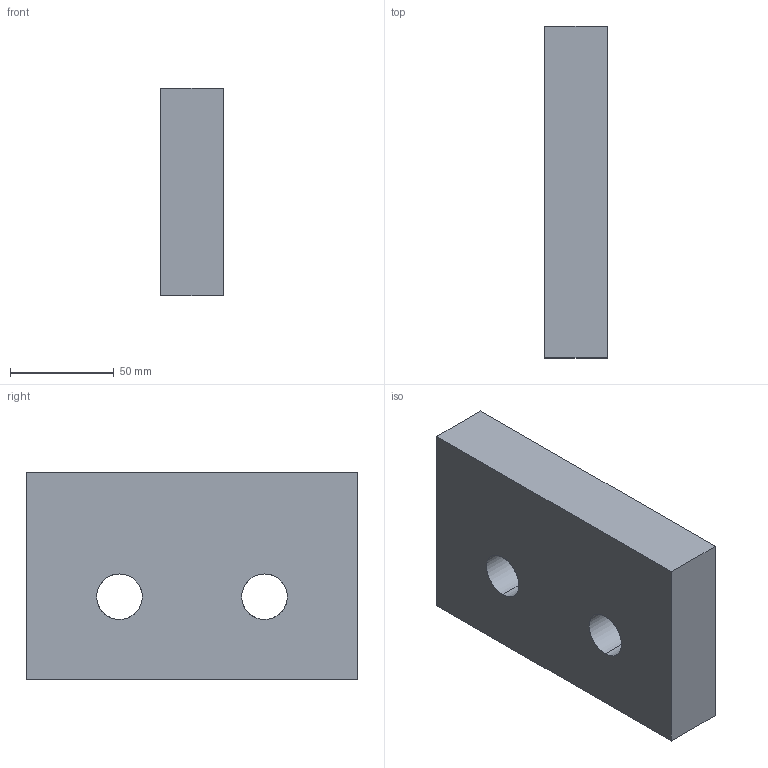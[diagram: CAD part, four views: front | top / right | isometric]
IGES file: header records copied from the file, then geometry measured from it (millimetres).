
Start section: START RECORD GO HERE.
Global section: file name: A612-100-1601.igs; native system: DASSAULT SYSTEMES CATIA V5 R20 - www.3ds.com; preprocessor: CATIA Version 5 Release 20 ; author: Utente; organization: NB04-ASUS; date: 20200414.151944; units: millimetre
Bounding box: 30 x 160 x 100 mm (x, y, z)
Surface area: 50226.4 mm2 (no closed solid volume)
Topology: 0 solids, 0 shells, 10 faces, 48 edges, 48 vertices
Faces by surface type: extrusion 6, revolution 4
